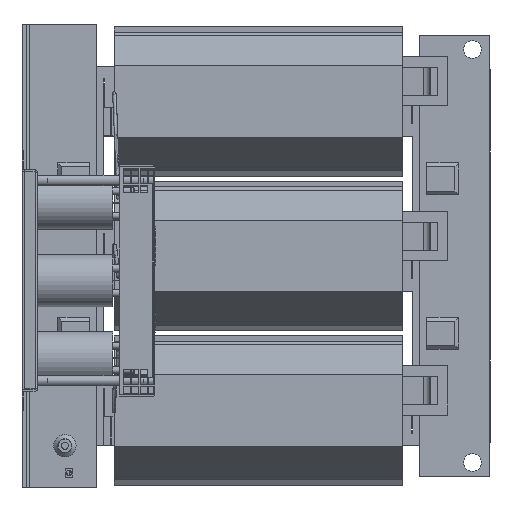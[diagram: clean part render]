
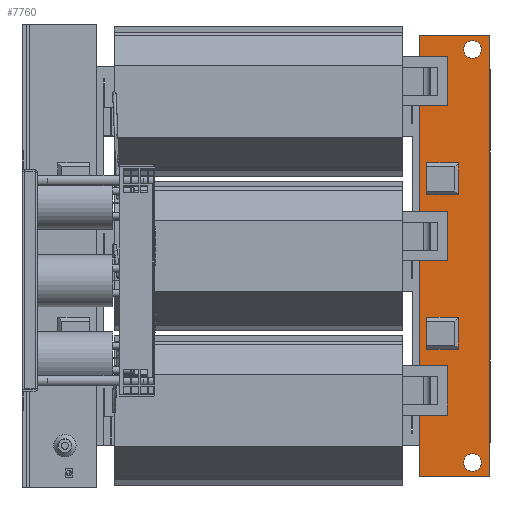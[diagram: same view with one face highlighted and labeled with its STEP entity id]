
A CAD part, left-side view. The second image highlights one B-rep face of the part: STEP entity #7760.
In plain terms, the highlighted planar face has unit normal (-1, 0, 0).
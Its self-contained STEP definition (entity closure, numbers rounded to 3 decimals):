
#4969=CARTESIAN_POINT('',(104.814,-574.137,-1083.149));
#4970=VERTEX_POINT('',#4969);
#4987=CARTESIAN_POINT('',(104.814,-619.137,-1083.149));
#4988=VERTEX_POINT('',#4987);
#4995=CARTESIAN_POINT('',(104.814,-574.137,-1083.149));
#4996=DIRECTION('',(0.0,-1.0,0.0));
#4997=VECTOR('',#4996,45.);
#4998=LINE('',#4995,#4997);
#4999=EDGE_CURVE('',#4970,#4988,#4998,.T.);
#5017=CARTESIAN_POINT('',(104.814,-619.137,-1128.149));
#5018=VERTEX_POINT('',#5017);
#5025=CARTESIAN_POINT('',(104.814,-619.137,-1083.149));
#5026=DIRECTION('',(0.0,0.0,-1.0));
#5027=VECTOR('',#5026,45.0);
#5028=LINE('',#5025,#5027);
#5029=EDGE_CURVE('',#4988,#5018,#5028,.T.);
#5048=CARTESIAN_POINT('',(104.814,-574.137,-1128.149));
#5049=VERTEX_POINT('',#5048);
#5056=CARTESIAN_POINT('',(104.814,-619.137,-1128.149));
#5057=DIRECTION('',(0.0,1.0,0.0));
#5058=VECTOR('',#5057,45.0);
#5059=LINE('',#5056,#5058);
#5060=EDGE_CURVE('',#5018,#5049,#5059,.T.);
#5175=CARTESIAN_POINT('',(104.814,-574.137,-908.149));
#5176=VERTEX_POINT('',#5175);
#5183=CARTESIAN_POINT('',(104.814,-619.137,-908.149));
#5184=VERTEX_POINT('',#5183);
#5185=CARTESIAN_POINT('',(104.814,-619.137,-908.149));
#5186=DIRECTION('',(0.0,1.0,0.0));
#5187=VECTOR('',#5186,45.);
#5188=LINE('',#5185,#5187);
#5189=EDGE_CURVE('',#5184,#5176,#5188,.T.);
#5213=CARTESIAN_POINT('',(104.814,-619.137,-863.149));
#5214=VERTEX_POINT('',#5213);
#5215=CARTESIAN_POINT('',(104.814,-619.137,-863.149));
#5216=DIRECTION('',(0.0,0.0,-1.0));
#5217=VECTOR('',#5216,45.);
#5218=LINE('',#5215,#5217);
#5219=EDGE_CURVE('',#5214,#5184,#5218,.T.);
#5244=CARTESIAN_POINT('',(104.814,-574.137,-863.149));
#5245=VERTEX_POINT('',#5244);
#5246=CARTESIAN_POINT('',(104.814,-574.137,-863.149));
#5247=DIRECTION('',(0.0,-1.0,0.0));
#5248=VECTOR('',#5247,45.);
#5249=LINE('',#5246,#5248);
#5250=EDGE_CURVE('',#5245,#5214,#5249,.T.);
#6851=CARTESIAN_POINT('',(104.814,-574.137,-1128.149));
#6852=DIRECTION('',(0.0,0.0,1.0));
#6853=VECTOR('',#6852,45.);
#6854=LINE('',#6851,#6853);
#6855=EDGE_CURVE('',#5049,#4970,#6854,.T.);
#6881=CARTESIAN_POINT('',(104.814,-626.637,-701.649));
#6882=VERTEX_POINT('',#6881);
#6883=CARTESIAN_POINT('',(104.814,-639.137,-701.649));
#6884=DIRECTION('',(1.0,0.0,0.0));
#6885=DIRECTION('',(0.0,-1.0,0.0));
#6886=AXIS2_PLACEMENT_3D('',#6883,#6884,#6885);
#6887=CIRCLE('',#6886,12.5);
#6888=EDGE_CURVE('',#6882,#6882,#6887,.T.);
#6921=CARTESIAN_POINT('',(104.814,-626.637,-1289.649));
#6922=VERTEX_POINT('',#6921);
#6923=CARTESIAN_POINT('',(104.814,-639.137,-1289.649));
#6924=DIRECTION('',(1.0,0.0,0.0));
#6925=DIRECTION('',(0.0,-1.0,0.0));
#6926=AXIS2_PLACEMENT_3D('',#6923,#6924,#6925);
#6927=CIRCLE('',#6926,12.5);
#6928=EDGE_CURVE('',#6922,#6922,#6927,.T.);
#7035=CARTESIAN_POINT('',(104.814,-574.137,-908.149));
#7036=DIRECTION('',(0.0,0.0,1.0));
#7037=VECTOR('',#7036,45.);
#7038=LINE('',#7035,#7037);
#7039=EDGE_CURVE('',#5176,#5245,#7038,.T.);
#7611=CARTESIAN_POINT('',(104.814,-564.137,-1309.649));
#7612=VERTEX_POINT('',#7611);
#7619=CARTESIAN_POINT('',(104.814,-564.137,-681.649));
#7620=VERTEX_POINT('',#7619);
#7621=CARTESIAN_POINT('',(104.814,-564.137,-681.649));
#7622=DIRECTION('',(0.0,0.0,-1.0));
#7623=VECTOR('',#7622,628.);
#7624=LINE('',#7621,#7623);
#7625=EDGE_CURVE('',#7620,#7612,#7624,.T.);
#7642=CARTESIAN_POINT('',(104.814,-664.137,-1309.649));
#7643=VERTEX_POINT('',#7642);
#7650=CARTESIAN_POINT('',(104.814,-564.137,-1309.649));
#7651=DIRECTION('',(0.0,-1.0,0.0));
#7652=VECTOR('',#7651,100.);
#7653=LINE('',#7650,#7652);
#7654=EDGE_CURVE('',#7612,#7643,#7653,.T.);
#7679=CARTESIAN_POINT('',(104.814,-664.137,-681.649));
#7680=VERTEX_POINT('',#7679);
#7687=CARTESIAN_POINT('',(104.814,-664.137,-1309.649));
#7688=DIRECTION('',(0.0,0.0,1.0));
#7689=VECTOR('',#7688,628.0);
#7690=LINE('',#7687,#7689);
#7691=EDGE_CURVE('',#7643,#7680,#7690,.T.);
#7704=CARTESIAN_POINT('',(104.814,-664.137,-681.649));
#7705=DIRECTION('',(0.0,1.0,0.0));
#7706=VECTOR('',#7705,100.);
#7707=LINE('',#7704,#7706);
#7708=EDGE_CURVE('',#7680,#7620,#7707,.T.);
#7731=CARTESIAN_POINT('',(104.814,-614.137,-995.649));
#7732=DIRECTION('',(1.0,0.0,0.0));
#7733=DIRECTION('',(0.0,0.0,-1.0));
#7734=AXIS2_PLACEMENT_3D('',#7731,#7732,#7733);
#7735=PLANE('',#7734);
#7736=ORIENTED_EDGE('',*,*,#7708,.T.);
#7737=ORIENTED_EDGE('',*,*,#7625,.T.);
#7738=ORIENTED_EDGE('',*,*,#7654,.T.);
#7739=ORIENTED_EDGE('',*,*,#7691,.T.);
#7740=EDGE_LOOP('',(#7736,#7737,#7738,#7739));
#7741=FACE_OUTER_BOUND('',#7740,.T.);
#7742=ORIENTED_EDGE('',*,*,#6855,.T.);
#7743=ORIENTED_EDGE('',*,*,#4999,.T.);
#7744=ORIENTED_EDGE('',*,*,#5029,.T.);
#7745=ORIENTED_EDGE('',*,*,#5060,.T.);
#7746=EDGE_LOOP('',(#7742,#7743,#7744,#7745));
#7747=FACE_BOUND('',#7746,.T.);
#7748=ORIENTED_EDGE('',*,*,#7039,.T.);
#7749=ORIENTED_EDGE('',*,*,#5250,.T.);
#7750=ORIENTED_EDGE('',*,*,#5219,.T.);
#7751=ORIENTED_EDGE('',*,*,#5189,.T.);
#7752=EDGE_LOOP('',(#7748,#7749,#7750,#7751));
#7753=FACE_BOUND('',#7752,.T.);
#7754=ORIENTED_EDGE('',*,*,#6888,.T.);
#7755=EDGE_LOOP('',(#7754));
#7756=FACE_BOUND('',#7755,.T.);
#7757=ORIENTED_EDGE('',*,*,#6928,.T.);
#7758=EDGE_LOOP('',(#7757));
#7759=FACE_BOUND('',#7758,.T.);
#7760=ADVANCED_FACE('',(#7741,#7747,#7753,#7756,#7759),#7735,.F.);
